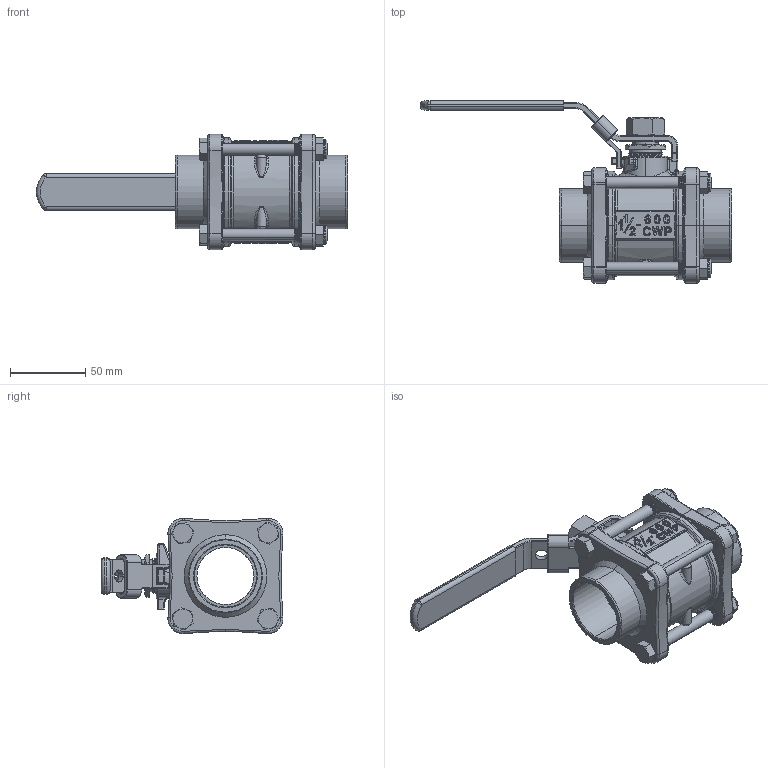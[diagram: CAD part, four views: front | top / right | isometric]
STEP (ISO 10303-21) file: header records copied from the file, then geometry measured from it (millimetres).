
FILE_DESCRIPTION (( 'STEP AP203' ), '1' );
FILE_NAME ('S-40.STEP', '2025-02-27T05:19:38', ( 'user' ), ( '' ), 'SwSTEP 2.0', 'SolidWorks 2012', '' );
FILE_SCHEMA (( 'CONFIG_CONTROL_DESIGN' ));
Length unit declared in the file: millimetre
Products named in the file (17): S-40; 15-HANDLE NUT; 掛鎖; 14-HANDLE COVER; 13-HANDLE; 12-CAP BOLT; 11-CAP NUT; 10-GLAND; 9-BODY SEAL; 8-GLAND PACKING; 7-O-RING; 6-THRUST WASHER; 5-SEAT; 4-STEM; 3-BALL; 2-CAP; 1-BODY
Assembly tree (26 placements, depth 2):
  S-40
    1-BODY
    2-CAP  x2
    3-BALL
    4-STEM
    5-SEAT  x2
    6-THRUST WASHER
    7-O-RING  x2
    8-GLAND PACKING
    9-BODY SEAL  x2
    10-GLAND
    11-CAP NUT  x4
    12-CAP BOLT  x4
    13-HANDLE
    14-HANDLE COVER
    掛鎖
    15-HANDLE NUT
Bounding box: 206.9 x 121.07 x 76.59 mm (x, y, z)
Volume: 285556.5 mm3; surface area: 141501 mm2
Topology: 26 solids, 26 shells, 1615 faces, 4022 edges, 2441 vertices
Faces by surface type: cylinder 541, bspline 366, plane 315, cone 170, torus 169, sphere 54
Entity records: 81637 total; most frequent: CARTESIAN_POINT 54922, ORIENTED_EDGE 5630, DIRECTION 4572, EDGE_CURVE 2815, AXIS2_PLACEMENT_3D 1889, VERTEX_POINT 1714, EDGE_LOOP 1243, ADVANCED_FACE 1169
